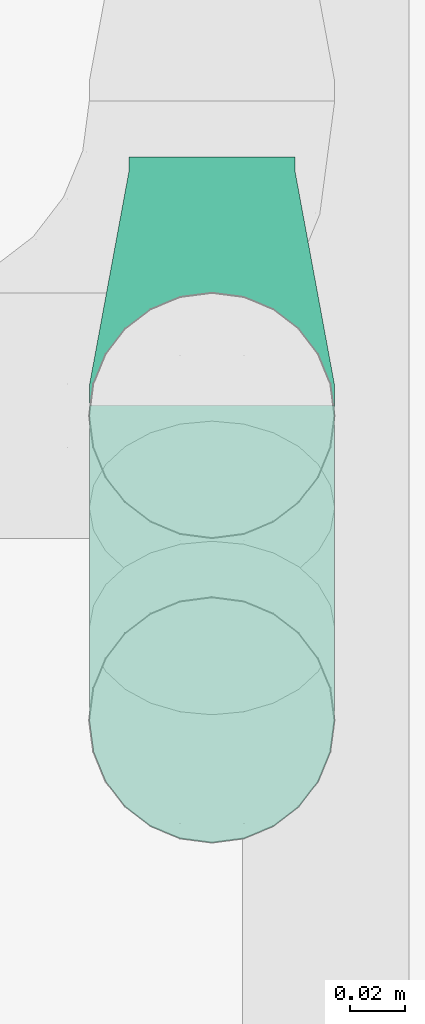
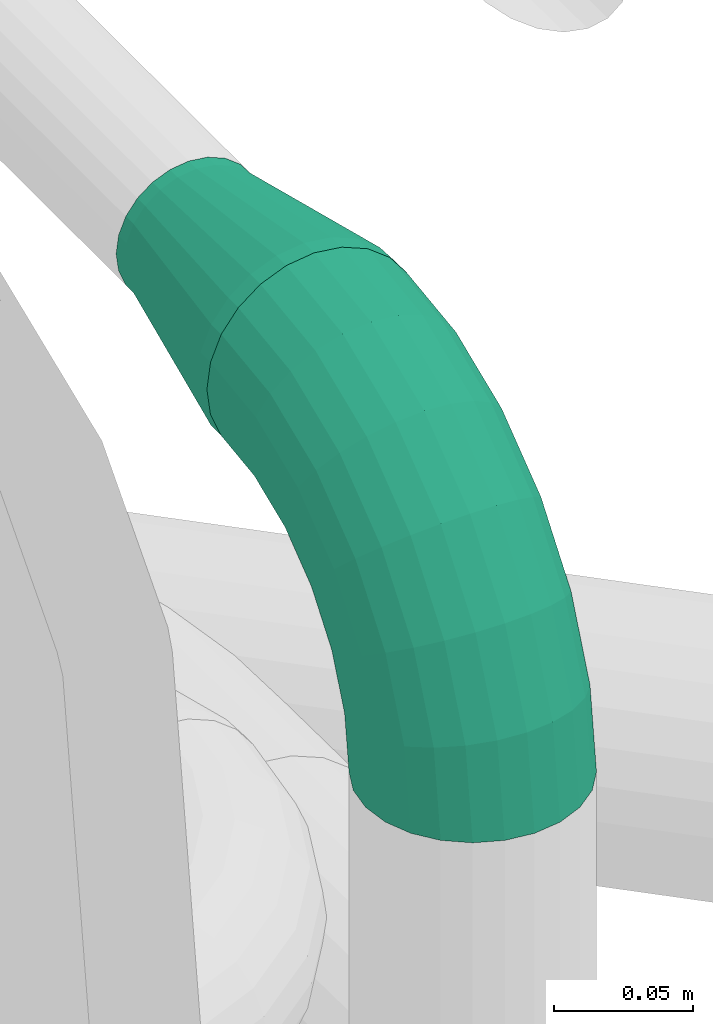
# One storey, part 94 of 374: 1 flow fitting, 1 flow segment.
"""IFC2X3 building model written with IfcOpenShell, lengths in metres."""

from ifc_helpers import new_model, si_unit, direction, origin, place, context, subcontext, project, spatial, open_shell, surface_model, source, transform, mapped, element, save


model = new_model("IFC2X3")

# Units and contexts
model_context = context("Model", 3, precision=1e-05, world=origin(), true_north=direction((-0.4480736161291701, 0.8939966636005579)))
body_context = subcontext(model_context, "Body", "Model", "MODEL_VIEW")
ifc_project = project(units=[si_unit("LENGTHUNIT", "METRE"), si_unit("AREAUNIT", "SQUARE_METRE"), si_unit("VOLUMEUNIT", "CUBIC_METRE"), si_unit("PLANEANGLEUNIT", "RADIAN"), si_unit("THERMODYNAMICTEMPERATUREUNIT", "KELVIN"), si_unit("MASSUNIT", "GRAM", prefix="KILO"), si_unit("TIMEUNIT", "SECOND")], contexts=[model_context])

# Site, building, storey
site_placement = place(None, origin())
site = spatial("IfcSite", under=ifc_project, at=site_placement, Name="Site 1", CompositionType="ELEMENT")
building_placement = place(site_placement, origin())
building = spatial("IfcBuilding", under=site, at=building_placement, Name="Undefined", CompositionType="ELEMENT")
storey_placement = place(building_placement, origin())
storey = spatial("IfcBuildingStorey", under=building, at=storey_placement, Name="Rez de chauss\x8ee", CompositionType="ELEMENT", Elevation=0.0)

# Flow fitting
shared_shape_1 = source(origin(), body_context, "Body", "SurfaceModel", [
    surface_model("IfcFaceBasedSurfaceModel", [(0.0, 0.0, 0.0), (0.011603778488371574, 0.0, -1.776356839e-15), (0.011603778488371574, 0.0071496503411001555, -1.776356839e-15), (7.105427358e-15, 0.0071496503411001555, 0.0), (0.022812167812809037, 0.0, -0.0030032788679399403), (0.022812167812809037, 0.0071496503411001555, -0.0030032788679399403), (0.03286133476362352, 0.0, -0.008805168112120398), (0.03286133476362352, 0.0071496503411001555, -0.008805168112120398), (0.0410664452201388, 0.0, -0.01701027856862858), (0.0410664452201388, 0.0071496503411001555, -0.01701027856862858), (0.04686833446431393, 0.0, -0.027059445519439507), (0.04686833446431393, 0.0071496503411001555, -0.027059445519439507), (0.04987161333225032, 0.0, -0.03826783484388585), (0.04987161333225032, 0.0071496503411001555, -0.03826783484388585), (0.049871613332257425, 0.0, -0.04987161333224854), (0.049871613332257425, 0.0071496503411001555, -0.04987161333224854), (0.04686833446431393, 0.0, -0.06108000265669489), (0.04686833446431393, 0.0071496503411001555, -0.06108000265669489), (0.0410664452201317, 0.0, -0.07112916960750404), (0.0410664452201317, 0.0071496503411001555, -0.07112916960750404), (0.03286133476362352, 0.0, -0.07933428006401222), (0.03286133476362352, 0.0071496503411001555, -0.07933428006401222), (0.022812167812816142, 0.0, -0.08513616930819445), (0.022812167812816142, 0.0071496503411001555, -0.08513616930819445), (0.011603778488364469, 0.0, -0.08813944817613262), (0.011603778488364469, 0.0071496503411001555, -0.08813944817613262), (0.0, 0.0, -0.08813944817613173), (1.4210854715e-14, 0.0071496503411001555, -0.08813944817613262), (-0.011208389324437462, 0.0, -0.08513616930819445), (-0.011208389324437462, 0.0071496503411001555, -0.08513616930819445), (-0.021257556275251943, 0.0, -0.07933428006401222), (-0.021257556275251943, 0.0071496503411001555, -0.07933428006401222), (-0.02946266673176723, 0.0, -0.07112916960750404), (-0.02946266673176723, 0.0071496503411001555, -0.07112916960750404), (-0.03526455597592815, 0.0, -0.06108000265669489), (-0.03526455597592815, 0.0071496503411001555, -0.06108000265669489), (-0.038267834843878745, 0.0, -0.04987161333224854), (-0.038267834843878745, 0.0071496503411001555, -0.04987161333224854), (-0.03826783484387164, 0.0, -0.038267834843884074), (-0.03826783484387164, 0.0071496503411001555, -0.038267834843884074), (-0.03526455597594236, 0.0, -0.027059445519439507), (-0.03526455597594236, 0.0071496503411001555, -0.027059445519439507), (-0.029462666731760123, 0.0, -0.01701027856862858), (-0.029462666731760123, 0.0071496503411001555, -0.01701027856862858), (-0.021257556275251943, 0.0, -0.008805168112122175), (-0.021257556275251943, 0.0071496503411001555, -0.008805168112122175), (-0.011208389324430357, 0.0, -0.0030032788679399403), (-0.011208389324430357, 0.0071496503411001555, -0.0030032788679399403), (-0.024090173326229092, 0.08450909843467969, -0.040134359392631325), (-0.024090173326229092, 0.08450909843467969, -0.04800508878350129), (-0.022053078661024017, 0.08450909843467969, -0.03253181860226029), (-0.018117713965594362, 0.08450909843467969, -0.0257155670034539), (-0.012552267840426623, 0.08450909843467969, -0.02015012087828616), (-0.005736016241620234, 0.08450909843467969, -0.016214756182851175), (0.0018665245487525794, 0.08450909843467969, -0.0141776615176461), (0.009737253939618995, 0.08450909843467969, -0.0141776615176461), (0.017339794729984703, 0.08450909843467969, -0.016214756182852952), (0.024156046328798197, 0.08450909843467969, -0.02015012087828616), (0.029721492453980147, 0.08450909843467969, -0.0257155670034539), (0.0336568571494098, 0.08450909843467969, -0.03253181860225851), (0.035693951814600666, 0.08450909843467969, -0.0401343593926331), (0.03569395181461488, 0.08450909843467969, -0.04800508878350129), (0.0336568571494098, 0.08450909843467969, -0.05560762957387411), (0.029721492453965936, 0.08450909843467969, -0.06242388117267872), (0.024156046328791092, 0.08450909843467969, -0.06798932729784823), (0.01733979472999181, 0.08450909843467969, -0.07192469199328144), (0.009737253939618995, 0.08450909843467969, -0.07396178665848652), (0.0018665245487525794, 0.08450909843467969, -0.07396178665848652), (-0.005736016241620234, 0.08450909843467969, -0.07192469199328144), (-0.012552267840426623, 0.08450909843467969, -0.06798932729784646), (-0.018117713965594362, 0.08450909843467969, -0.062423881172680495), (-0.022053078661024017, 0.08450909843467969, -0.05560762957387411), (0.009737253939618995, 0.08999999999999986, -0.0141776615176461), (0.0018665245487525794, 0.08999999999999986, -0.0141776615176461), (0.017339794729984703, 0.08999999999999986, -0.016214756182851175), (0.024156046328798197, 0.08999999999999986, -0.02015012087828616), (0.029721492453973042, 0.08999999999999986, -0.0257155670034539), (0.0336568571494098, 0.08999999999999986, -0.03253181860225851), (0.035693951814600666, 0.08999999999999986, -0.0401343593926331), (0.03569395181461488, 0.08999999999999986, -0.04800508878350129), (0.0336568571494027, 0.08999999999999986, -0.05560762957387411), (0.029721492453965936, 0.08999999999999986, -0.06242388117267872), (0.024156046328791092, 0.08999999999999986, -0.06798932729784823), (0.01733979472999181, 0.08999999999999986, -0.07192469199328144), (0.00973725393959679, 0.08999999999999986, -0.07396178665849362), (0.0018665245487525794, 0.08999999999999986, -0.07396178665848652), (-0.005736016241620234, 0.08999999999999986, -0.07192469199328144), (-0.012552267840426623, 0.08999999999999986, -0.06798932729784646), (-0.018117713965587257, 0.08999999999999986, -0.06242388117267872), (-0.022053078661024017, 0.08999999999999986, -0.05560762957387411), (-0.024090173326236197, 0.08999999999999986, -0.04800508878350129), (-0.024090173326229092, 0.08999999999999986, -0.040134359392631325), (-0.02205307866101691, 0.08999999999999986, -0.03253181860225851), (-0.018117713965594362, 0.08999999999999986, -0.0257155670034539), (-0.012552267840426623, 0.08999999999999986, -0.020150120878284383), (-0.005736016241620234, 0.08999999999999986, -0.016214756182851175)], [open_shell([[[0, 1, 2, 3]], [[1, 4, 5, 2]], [[4, 6, 7, 5]], [[6, 8, 9, 7]], [[8, 10, 11, 9]], [[10, 12, 13, 11]], [[12, 14, 15, 13]], [[14, 16, 17, 15]], [[16, 18, 19, 17]], [[18, 20, 21, 19]], [[20, 22, 23, 21]], [[22, 24, 25, 23]], [[24, 26, 27, 25]], [[26, 28, 29, 27]], [[28, 30, 31, 29]], [[30, 32, 33, 31]], [[32, 34, 35, 33]], [[34, 36, 37, 35]], [[36, 38, 39, 37]], [[38, 40, 41, 39]], [[40, 42, 43, 41]], [[42, 44, 45, 43]], [[44, 46, 47, 45]], [[46, 0, 3, 47]], [[37, 39, 48, 49]], [[39, 41, 50, 48]], [[41, 43, 51, 50]], [[43, 45, 52, 51]], [[45, 47, 53, 52]], [[47, 3, 54, 53]], [[3, 2, 55, 54]], [[2, 5, 56, 55]], [[5, 7, 57, 56]], [[7, 9, 58, 57]], [[9, 11, 59, 58]], [[11, 13, 60, 59]], [[13, 15, 61, 60]], [[15, 17, 62, 61]], [[17, 19, 63, 62]], [[19, 21, 64, 63]], [[21, 23, 65, 64]], [[23, 25, 66, 65]], [[25, 27, 67, 66]], [[27, 29, 68, 67]], [[29, 31, 69, 68]], [[31, 33, 70, 69]], [[33, 35, 71, 70]], [[35, 37, 49, 71]], [[54, 55, 72, 73]], [[55, 56, 74, 72]], [[56, 57, 75, 74]], [[57, 58, 76, 75]], [[58, 59, 77, 76]], [[59, 60, 78, 77]], [[60, 61, 79, 78]], [[61, 62, 80, 79]], [[62, 63, 81, 80]], [[63, 64, 82, 81]], [[64, 65, 83, 82]], [[65, 66, 84, 83]], [[66, 67, 85, 84]], [[67, 68, 86, 85]], [[68, 69, 87, 86]], [[69, 70, 88, 87]], [[70, 71, 89, 88]], [[71, 49, 90, 89]], [[49, 48, 91, 90]], [[48, 50, 92, 91]], [[50, 51, 93, 92]], [[51, 52, 94, 93]], [[52, 53, 95, 94]], [[53, 54, 73, 95]]])]),
])
flow_fitting_placement = place(storey_placement, origin())
element("IfcFlowFitting", 1, at=flow_fitting_placement, inside=storey, Name="Réduction", ObjectType="Réduction", context=body_context, shape_type="MappedRepresentation", body=[
    mapped(shared_shape_1, transform((54.95838056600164, 9.985999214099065, 1.9655917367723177), x_axis=(0.1305261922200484, 0.0, 0.9914448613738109), y_axis=(0.0, 1.0, 0.0), z_axis=(-0.9914448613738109, 0.0, 0.1305261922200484))),
])

# Flow segment
shared_shape_2 = source(origin(), body_context, "Body", "SurfaceModel", [
    surface_model("IfcFaceBasedSurfaceModel", [(0.041363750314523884, -1.776356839e-15, 0.0), (0.04116605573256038, 0.011602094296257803, 0.0), (0.000197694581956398, 0.011602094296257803, 8.8817842e-16), (0.0, 0.0, 0.0), (-0.03937470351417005, 0.01297447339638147, -0.010514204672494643), (-0.039954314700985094, 0.0013856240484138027, -0.010615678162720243), (-0.07485434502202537, 0.015625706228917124, -0.03082608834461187), (-0.07577637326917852, 0.004062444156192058, -0.03112359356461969), (-0.10382335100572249, 0.01937511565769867, -0.059551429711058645), (-0.1050249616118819, 0.007848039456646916, -0.06012616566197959), (-0.12430753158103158, 0.023967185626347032, -0.09473264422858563), (-0.1257068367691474, 0.012484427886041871, -0.09564691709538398), (-0.1349109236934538, 0.029088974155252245, -0.13397219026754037), (-0.136412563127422, 0.017655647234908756, -0.13526516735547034), (0.04058644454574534, 0.02280223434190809, -0.0029780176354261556), (0.0007773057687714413, 0.022802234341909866, -0.002978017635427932), (-0.037675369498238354, 0.024135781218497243, -0.013194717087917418), (-0.07215109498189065, 0.026711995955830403, -0.032931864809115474), (-0.10030040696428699, 0.030355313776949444, -0.06084440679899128), (-0.12020497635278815, 0.03481744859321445, -0.09503014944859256), (-0.1305083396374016, 0.039794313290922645, -0.13315939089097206), (0.03966441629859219, 0.03283714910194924, -0.00873110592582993), (0.0016993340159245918, 0.03283714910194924, -0.00873110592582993), (-0.034972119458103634, 0.034108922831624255, -0.018474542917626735), (-0.06785084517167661, 0.03656580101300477, -0.03729741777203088), (-0.09469621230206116, 0.04004035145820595, -0.06391698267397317), (-0.11367875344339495, 0.044295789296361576, -0.09651915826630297), (-0.12350483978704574, 0.04904211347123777, -0.13288216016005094), (0.03846280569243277, 0.041022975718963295, -0.016867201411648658), (0.0029009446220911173, 0.04102297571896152, -0.016867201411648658), (-0.031449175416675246, 0.04221424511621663, -0.025993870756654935), (-0.06224665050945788, 0.044515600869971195, -0.04362524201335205), (-0.08739268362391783, 0.047770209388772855, -0.06855976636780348), (-0.10517361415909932, 0.051756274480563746, -0.09909819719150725), (-0.11437770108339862, 0.056202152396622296, -0.13315939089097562), (0.03706350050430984, 0.04680186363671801, -0.026831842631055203), (0.004300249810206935, 0.046801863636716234, -0.02683184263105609), (-0.027346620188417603, 0.047899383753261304, -0.03524027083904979), (-0.055720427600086, 0.050019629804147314, -0.051484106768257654), (-0.07888754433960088, 0.053018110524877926, -0.07445635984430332), (-0.09526916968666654, 0.056690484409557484, -0.10259150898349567), (-0.1037489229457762, 0.06078648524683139, -0.13397219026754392), (0.03556186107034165, 0.04977999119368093, -0.0379459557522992), (0.005801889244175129, 0.04977999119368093, -0.03794595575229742), (-0.022944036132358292, 0.05077690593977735, -0.045583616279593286), (-0.04871692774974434, 0.052702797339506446, -0.06033844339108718), (-0.06976040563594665, 0.05542641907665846, -0.08120492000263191), (-0.08464039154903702, 0.05876216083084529, -0.10676103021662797), (-0.09234283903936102, 0.06248269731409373, -0.13526516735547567), (0.03406022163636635, 0.04975440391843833, -0.049452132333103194), (0.007303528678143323, 0.04975440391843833, -0.04945213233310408), (-0.018541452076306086, 0.0506507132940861, -0.05631902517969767), (-0.04171342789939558, 0.05238225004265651, -0.06958484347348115), (-0.060633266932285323, 0.05483101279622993, -0.0883455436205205), (-0.0740116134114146, 0.057830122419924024, -0.11132261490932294), (-0.08093675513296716, 0.06117519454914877, -0.13695020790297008), (0.03266091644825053, 0.04672684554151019, -0.06056624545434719), (0.008702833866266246, 0.04672684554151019, -0.0605662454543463), (-0.014438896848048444, 0.04752940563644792, -0.06671489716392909), (-0.0351872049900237, 0.04907983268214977, -0.07859318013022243), (-0.05212812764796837, 0.051272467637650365, -0.09539160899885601), (-0.06410716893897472, 0.053957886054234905, -0.1159653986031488), (-0.07030797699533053, 0.05695308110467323, -0.13891247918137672), (0.03145930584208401, 0.04090363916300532, -0.07053088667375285), (0.009904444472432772, 0.0409036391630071, -0.07053088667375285), (-0.010915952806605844, 0.041625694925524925, -0.07606277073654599), (-0.02958301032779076, 0.0430205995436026, -0.08674955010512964), (-0.04482459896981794, 0.044993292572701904, -0.10186293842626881), (-0.055602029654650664, 0.04740933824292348, -0.12037298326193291), (-0.0611808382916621, 0.05010408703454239, -0.14101825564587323), (0.030537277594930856, 0.032681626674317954, -0.0786669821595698), (0.010826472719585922, 0.03268162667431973, -0.07866698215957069), (-0.00821270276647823, 0.033341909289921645, -0.08372560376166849), (-0.02528276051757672, 0.03461747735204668, -0.09349811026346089), (-0.039220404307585, 0.03642140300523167, -0.10731852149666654), (-0.04907580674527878, 0.03863075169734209, -0.12424499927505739), (-0.054177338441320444, 0.041094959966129, -0.14312403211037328), (0.029957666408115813, 0.022621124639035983, -0.0844200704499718), (0.011406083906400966, 0.022621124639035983, -0.08442007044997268), (-0.006513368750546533, 0.023242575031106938, -0.08918118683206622), (-0.022579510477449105, 0.024443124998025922, -0.09837895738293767), (-0.03569746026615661, 0.026140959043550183, -0.11138656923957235), (-0.044973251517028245, 0.028220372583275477, -0.12731757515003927), (-0.049774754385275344, 0.030539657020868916, -0.14508630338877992), (0.029759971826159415, 0.011407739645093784, -0.08739808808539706), (0.011603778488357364, 0.011407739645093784, -0.08739808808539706), (-0.0059337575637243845, 0.012015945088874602, -0.09205773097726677), (-0.021657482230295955, 0.013190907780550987, -0.1010594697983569), (-0.03449584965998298, 0.01485255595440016, -0.11378985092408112), (-0.043573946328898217, 0.016887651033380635, -0.12938131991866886), (-0.048273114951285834, 0.019157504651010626, -0.14677134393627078), (0.029957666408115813, -0.00019435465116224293, -0.08739808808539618), (0.011406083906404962, -0.000194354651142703, -0.08739808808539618), (-0.006513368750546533, 0.00042709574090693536, -0.09215920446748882), (-0.022579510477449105, 0.0016276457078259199, -0.10135697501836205), (-0.03569746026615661, 0.00332547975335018, -0.11436458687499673), (-0.044973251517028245, 0.0054048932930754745, -0.13029559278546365), (-0.049774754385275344, 0.007724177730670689, -0.1480643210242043), (0.030537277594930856, -0.011394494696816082, -0.08442007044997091), (0.010826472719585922, -0.011394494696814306, -0.08442007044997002), (-0.00821270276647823, -0.010734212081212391, -0.0894786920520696), (-0.02528276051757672, -0.009458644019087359, -0.09925119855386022), (-0.039220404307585, -0.007654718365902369, -0.11307160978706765), (-0.04907580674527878, -0.005445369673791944, -0.12999808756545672), (-0.054177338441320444, -0.0029811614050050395, -0.1488771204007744), (0.03145930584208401, -0.021429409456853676, -0.07866698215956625), (0.009904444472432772, -0.021429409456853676, -0.07866698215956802), (-0.010915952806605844, -0.02070735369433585, -0.08419886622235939), (-0.02958301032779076, -0.019312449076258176, -0.09488564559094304), (-0.04482459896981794, -0.017339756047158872, -0.10999903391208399), (-0.055602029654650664, -0.014923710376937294, -0.1285090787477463), (-0.0611808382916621, -0.012228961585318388, -0.1491543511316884), (0.03266091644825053, -0.029615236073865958, -0.0705308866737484), (0.008702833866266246, -0.029615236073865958, -0.07053088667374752), (-0.014438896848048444, -0.02881267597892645, -0.0766795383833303), (-0.0351872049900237, -0.027262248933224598, -0.08855782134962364), (-0.05212812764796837, -0.025069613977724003, -0.105356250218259), (-0.06410716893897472, -0.022384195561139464, -0.1259300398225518), (-0.07030797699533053, -0.019389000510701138, -0.14887712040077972), (0.03406022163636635, -0.03539412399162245, -0.06056624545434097), (0.007303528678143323, -0.03539412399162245, -0.06056624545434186), (-0.018541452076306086, -0.034497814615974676, -0.06743313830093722), (-0.04171342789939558, -0.03276627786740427, -0.08069895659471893), (-0.060633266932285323, -0.03031751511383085, -0.09945965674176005), (-0.0740116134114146, -0.027318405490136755, -0.12243672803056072), (-0.08093675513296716, -0.023973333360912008, -0.14806432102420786), (0.03556186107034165, -0.038372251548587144, -0.04945213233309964), (0.005801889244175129, -0.038372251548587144, -0.049452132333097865), (-0.022944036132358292, -0.03737533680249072, -0.05708979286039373), (-0.04871692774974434, -0.035449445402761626, -0.0718446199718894), (-0.06976040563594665, -0.03272582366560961, -0.09271109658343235), (-0.08464039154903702, -0.029390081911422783, -0.11826720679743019), (-0.09234283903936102, -0.025669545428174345, -0.1467713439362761), (0.03706350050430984, -0.03834666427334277, -0.03794595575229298), (0.004300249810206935, -0.038346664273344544, -0.03794595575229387), (-0.027346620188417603, -0.037249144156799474, -0.04635438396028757), (-0.055720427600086, -0.035128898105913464, -0.06259821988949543), (-0.07888754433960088, -0.03213041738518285, -0.0855704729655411), (-0.09526916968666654, -0.028458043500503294, -0.11370562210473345), (-0.1037489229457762, -0.02436204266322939, -0.1450863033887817), (0.03846280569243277, -0.03531910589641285, -0.026831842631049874), (0.0029009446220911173, -0.03531910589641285, -0.02683184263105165), (-0.031449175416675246, -0.03412783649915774, -0.03595851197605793), (-0.06224665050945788, -0.031826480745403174, -0.05358988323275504), (-0.08739268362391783, -0.028571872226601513, -0.07852440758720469), (-0.10517361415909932, -0.024585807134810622, -0.10906283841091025), (-0.11437770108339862, -0.020139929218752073, -0.1431240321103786), (0.03966441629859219, -0.029495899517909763, -0.01686720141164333), (0.0016993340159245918, -0.02949589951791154, -0.016867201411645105), (-0.034972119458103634, -0.02822412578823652, -0.02661063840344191), (-0.06785084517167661, -0.025767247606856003, -0.04543351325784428), (-0.09469621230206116, -0.02229269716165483, -0.07205307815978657), (-0.11367875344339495, -0.0180372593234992, -0.10465525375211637), (-0.12350483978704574, -0.013290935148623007, -0.14101825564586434), (0.04058644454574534, -0.021273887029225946, -0.008731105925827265), (0.0007773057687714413, -0.02127388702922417, -0.008731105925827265), (-0.037675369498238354, -0.019940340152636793, -0.018947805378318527), (-0.07215109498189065, -0.017364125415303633, -0.038684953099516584), (-0.10030040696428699, -0.013720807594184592, -0.06659749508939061), (-0.12020497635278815, -0.009258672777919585, -0.1007832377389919), (-0.1305083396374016, -0.004281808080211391, -0.1389124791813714), (0.04116605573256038, -0.011213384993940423, -0.0029780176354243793), (0.000197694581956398, -0.0112133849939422, -0.002978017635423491), (-0.03937470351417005, -0.009841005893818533, -0.013492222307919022), (-0.07485434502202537, -0.007189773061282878, -0.03380410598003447), (-0.10382335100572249, -0.003440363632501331, -0.06252944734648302), (-0.12430753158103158, 0.0011517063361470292, -0.09771066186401), (-0.1349109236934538, 0.006273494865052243, -0.13695020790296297)], [open_shell([[[0, 1, 2, 3]], [[3, 2, 4, 5]], [[5, 4, 6, 7]], [[7, 6, 8, 9]], [[9, 8, 10, 11]], [[11, 10, 12, 13]], [[1, 14, 15, 2]], [[2, 15, 16, 4]], [[4, 16, 17, 6]], [[6, 17, 18, 8]], [[8, 18, 19, 10]], [[10, 19, 20, 12]], [[14, 21, 22, 15]], [[15, 22, 23, 16]], [[16, 23, 24, 17]], [[17, 24, 25, 18]], [[18, 25, 26, 19]], [[19, 26, 27, 20]], [[21, 28, 29, 22]], [[22, 29, 30, 23]], [[23, 30, 31, 24]], [[24, 31, 32, 25]], [[25, 32, 33, 26]], [[26, 33, 34, 27]], [[28, 35, 36, 29]], [[29, 36, 37, 30]], [[30, 37, 38, 31]], [[31, 38, 39, 32]], [[32, 39, 40, 33]], [[33, 40, 41, 34]], [[35, 42, 43, 36]], [[36, 43, 44, 37]], [[37, 44, 45, 38]], [[38, 45, 46, 39]], [[39, 46, 47, 40]], [[40, 47, 48, 41]], [[42, 49, 50, 43]], [[43, 50, 51, 44]], [[44, 51, 52, 45]], [[45, 52, 53, 46]], [[46, 53, 54, 47]], [[47, 54, 55, 48]], [[49, 56, 57, 50]], [[50, 57, 58, 51]], [[51, 58, 59, 52]], [[52, 59, 60, 53]], [[53, 60, 61, 54]], [[54, 61, 62, 55]], [[56, 63, 64, 57]], [[57, 64, 65, 58]], [[58, 65, 66, 59]], [[59, 66, 67, 60]], [[60, 67, 68, 61]], [[61, 68, 69, 62]], [[63, 70, 71, 64]], [[64, 71, 72, 65]], [[65, 72, 73, 66]], [[66, 73, 74, 67]], [[67, 74, 75, 68]], [[68, 75, 76, 69]], [[70, 77, 78, 71]], [[71, 78, 79, 72]], [[72, 79, 80, 73]], [[73, 80, 81, 74]], [[74, 81, 82, 75]], [[75, 82, 83, 76]], [[77, 84, 85, 78]], [[78, 85, 86, 79]], [[79, 86, 87, 80]], [[80, 87, 88, 81]], [[81, 88, 89, 82]], [[82, 89, 90, 83]], [[84, 91, 92, 85]], [[85, 92, 93, 86]], [[86, 93, 94, 87]], [[87, 94, 95, 88]], [[88, 95, 96, 89]], [[89, 96, 97, 90]], [[91, 98, 99, 92]], [[92, 99, 100, 93]], [[93, 100, 101, 94]], [[94, 101, 102, 95]], [[95, 102, 103, 96]], [[96, 103, 104, 97]], [[98, 105, 106, 99]], [[99, 106, 107, 100]], [[100, 107, 108, 101]], [[101, 108, 109, 102]], [[102, 109, 110, 103]], [[103, 110, 111, 104]], [[105, 112, 113, 106]], [[106, 113, 114, 107]], [[107, 114, 115, 108]], [[108, 115, 116, 109]], [[109, 116, 117, 110]], [[110, 117, 118, 111]], [[112, 119, 120, 113]], [[113, 120, 121, 114]], [[114, 121, 122, 115]], [[115, 122, 123, 116]], [[116, 123, 124, 117]], [[117, 124, 125, 118]], [[119, 126, 127, 120]], [[120, 127, 128, 121]], [[121, 128, 129, 122]], [[122, 129, 130, 123]], [[123, 130, 131, 124]], [[124, 131, 132, 125]], [[126, 133, 134, 127]], [[127, 134, 135, 128]], [[128, 135, 136, 129]], [[129, 136, 137, 130]], [[130, 137, 138, 131]], [[131, 138, 139, 132]], [[133, 140, 141, 134]], [[134, 141, 142, 135]], [[135, 142, 143, 136]], [[136, 143, 144, 137]], [[137, 144, 145, 138]], [[138, 145, 146, 139]], [[140, 147, 148, 141]], [[141, 148, 149, 142]], [[142, 149, 150, 143]], [[143, 150, 151, 144]], [[144, 151, 152, 145]], [[145, 152, 153, 146]], [[147, 154, 155, 148]], [[148, 155, 156, 149]], [[149, 156, 157, 150]], [[150, 157, 158, 151]], [[151, 158, 159, 152]], [[152, 159, 160, 153]], [[154, 161, 162, 155]], [[155, 162, 163, 156]], [[156, 163, 164, 157]], [[157, 164, 165, 158]], [[158, 165, 166, 159]], [[159, 166, 167, 160]], [[161, 0, 3, 162]], [[162, 3, 5, 163]], [[163, 5, 7, 164]], [[164, 7, 9, 165]], [[165, 9, 11, 166]], [[166, 11, 13, 167]]])]),
])
flow_segment_placement = place(storey_placement, origin())
element("IfcFlowSegment", 2, at=flow_segment_placement, inside=storey, Name="Tube coudé", ObjectType="Tube coudé", context=body_context, shape_type="MappedRepresentation", body=[
    mapped(shared_shape_2, transform((55.002830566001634, 9.832948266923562, 1.8926016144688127), x_axis=(9.56658874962e-13, -0.13052619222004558, -0.9914448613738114), y_axis=(0.9915887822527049, 0.12832103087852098, -0.01689378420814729), z_axis=(0.12942830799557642, -0.983105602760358, 0.1294283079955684))),
])

save(model, "model.ifc")
